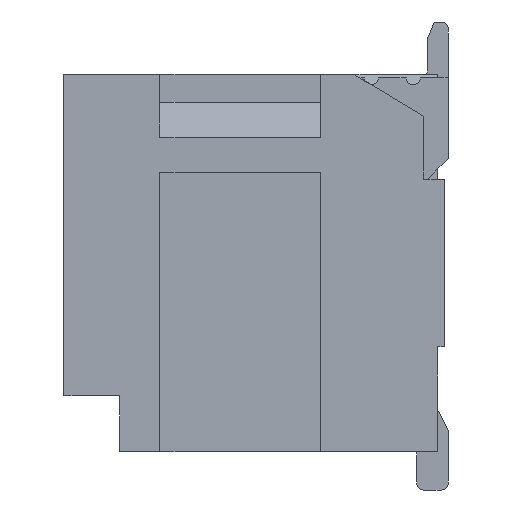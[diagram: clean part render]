
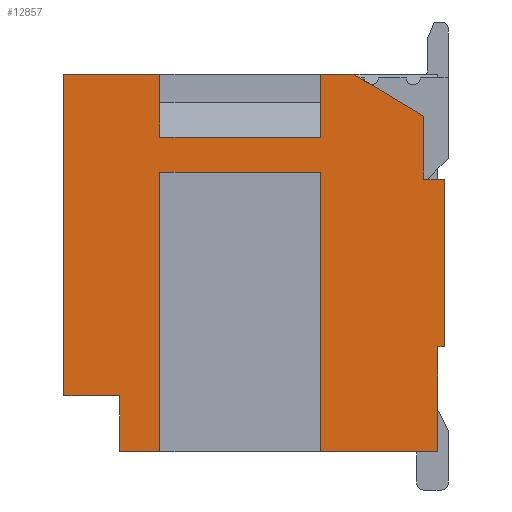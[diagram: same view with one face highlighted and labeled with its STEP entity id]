
A CAD part, left-side view. The second image highlights one B-rep face of the part: STEP entity #12857.
In plain terms, the highlighted planar face has unit normal (-1, 0, 0).
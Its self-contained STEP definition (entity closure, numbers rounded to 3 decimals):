
#73=DIRECTION('',(0.,0.,1.));
#74=VECTOR('',#73,1.5);
#75=CARTESIAN_POINT('',(5.,0.1,-5.4));
#76=LINE('',#75,#74);
#81=DIRECTION('',(0.,-1.,0.));
#82=VECTOR('',#81,0.1);
#83=CARTESIAN_POINT('',(5.,0.1,-3.9));
#84=LINE('',#83,#82);
#85=DIRECTION('',(0.,0.,1.));
#86=VECTOR('',#85,4.6);
#87=CARTESIAN_POINT('',(5.,5.45,-4.6));
#88=LINE('',#87,#86);
#89=DIRECTION('',(0.,-1.,0.));
#90=VECTOR('',#89,1.375);
#91=CARTESIAN_POINT('',(5.,5.45,0.));
#92=LINE('',#91,#90);
#93=DIRECTION('',(0.,-1.,0.));
#94=VECTOR('',#93,2.3);
#95=CARTESIAN_POINT('',(5.,4.075,-0.9));
#96=LINE('',#95,#94);
#97=DIRECTION('',(0.,-0.857,-0.514));
#98=VECTOR('',#97,1.166);
#99=CARTESIAN_POINT('',(5.,1.3,0.));
#100=LINE('',#99,#98);
#101=DIRECTION('',(0.,0.,-1.));
#102=VECTOR('',#101,2.4);
#103=CARTESIAN_POINT('',(5.,0.,-1.5));
#104=LINE('',#103,#102);
#105=DIRECTION('',(0.,1.,0.));
#106=VECTOR('',#105,2.3);
#107=CARTESIAN_POINT('',(5.,1.775,-1.4));
#108=LINE('',#107,#106);
#121=DIRECTION('',(0.,-1.,0.));
#122=VECTOR('',#121,0.8);
#123=CARTESIAN_POINT('',(5.,5.45,-4.6));
#124=LINE('',#123,#122);
#317=DIRECTION('',(0.,0.,-1.));
#318=VECTOR('',#317,0.8);
#319=CARTESIAN_POINT('',(5.,4.65,-4.6));
#320=LINE('',#319,#318);
#497=DIRECTION('',(0.,-1.,0.));
#498=VECTOR('',#497,0.575);
#499=CARTESIAN_POINT('',(5.,4.65,-5.4));
#500=LINE('',#499,#498);
#501=DIRECTION('',(0.,-1.,0.));
#502=VECTOR('',#501,1.675);
#503=CARTESIAN_POINT('',(5.,1.775,-5.4));
#504=LINE('',#503,#502);
#513=DIRECTION('',(0.,0.,1.));
#514=VECTOR('',#513,4.);
#515=CARTESIAN_POINT('',(5.,4.075,-5.4));
#516=LINE('',#515,#514);
#521=DIRECTION('',(0.,0.,-1.));
#522=VECTOR('',#521,4.);
#523=CARTESIAN_POINT('',(5.,1.775,-1.4));
#524=LINE('',#523,#522);
#2355=DIRECTION('',(0.,1.,0.));
#2356=VECTOR('',#2355,0.475);
#2357=CARTESIAN_POINT('',(5.,1.3,0.));
#2358=LINE('',#2357,#2356);
#2447=DIRECTION('',(0.,1.,0.));
#2448=VECTOR('',#2447,0.3);
#2449=CARTESIAN_POINT('',(5.,0.,-1.5));
#2450=LINE('',#2449,#2448);
#2693=DIRECTION('',(0.,0.,1.));
#2694=VECTOR('',#2693,0.9);
#2695=CARTESIAN_POINT('',(5.,0.3,-1.5));
#2696=LINE('',#2695,#2694);
#4531=DIRECTION('',(0.,0.,-1.));
#4532=VECTOR('',#4531,0.9);
#4533=CARTESIAN_POINT('',(5.,1.775,0.));
#4534=LINE('',#4533,#4532);
#4539=DIRECTION('',(0.,0.,1.));
#4540=VECTOR('',#4539,0.9);
#4541=CARTESIAN_POINT('',(5.,4.075,-0.9));
#4542=LINE('',#4541,#4540);
#9797=CARTESIAN_POINT('',(5.,0.,-1.5));
#9798=VERTEX_POINT('',#9797);
#9799=CARTESIAN_POINT('',(5.,0.3,-1.5));
#9800=VERTEX_POINT('',#9799);
#9926=CARTESIAN_POINT('',(5.,5.45,0.));
#9928=VERTEX_POINT('',#9926);
#9975=CARTESIAN_POINT('',(5.,1.3,0.));
#9976=VERTEX_POINT('',#9975);
#9977=CARTESIAN_POINT('',(5.,1.775,0.));
#9978=VERTEX_POINT('',#9977);
#9983=CARTESIAN_POINT('',(5.,4.075,0.));
#9984=VERTEX_POINT('',#9983);
#9986=CARTESIAN_POINT('',(5.,5.45,-4.6));
#9988=VERTEX_POINT('',#9986);
#10007=CARTESIAN_POINT('',(5.,4.65,-4.6));
#10008=VERTEX_POINT('',#10007);
#10149=CARTESIAN_POINT('',(5.,0.,-3.9));
#10150=VERTEX_POINT('',#10149);
#10971=CARTESIAN_POINT('',(5.,4.65,-5.4));
#10972=VERTEX_POINT('',#10971);
#10975=CARTESIAN_POINT('',(5.,4.075,-0.9));
#10976=VERTEX_POINT('',#10975);
#10977=CARTESIAN_POINT('',(5.,1.775,-0.9));
#10978=VERTEX_POINT('',#10977);
#10979=CARTESIAN_POINT('',(5.,0.3,-0.6));
#10980=VERTEX_POINT('',#10979);
#10981=CARTESIAN_POINT('',(5.,0.1,-3.9));
#10982=VERTEX_POINT('',#10981);
#10983=CARTESIAN_POINT('',(5.,0.1,-5.4));
#10984=VERTEX_POINT('',#10983);
#10985=CARTESIAN_POINT('',(5.,1.775,-5.4));
#10986=VERTEX_POINT('',#10985);
#10987=CARTESIAN_POINT('',(5.,1.775,-1.4));
#10988=VERTEX_POINT('',#10987);
#10989=CARTESIAN_POINT('',(5.,4.075,-1.4));
#10990=VERTEX_POINT('',#10989);
#10991=CARTESIAN_POINT('',(5.,4.075,-5.4));
#10992=VERTEX_POINT('',#10991);
#12814=CARTESIAN_POINT('',(5.,2.475,-2.7));
#12815=DIRECTION('',(1.,0.,0.));
#12816=DIRECTION('',(0.,1.,0.));
#12817=AXIS2_PLACEMENT_3D('',#12814,#12815,#12816);
#12818=PLANE('',#12817);
#12820=ORIENTED_EDGE('',*,*,#12819,.F.);
#12822=ORIENTED_EDGE('',*,*,#12821,.T.);
#12824=ORIENTED_EDGE('',*,*,#12823,.T.);
#12826=ORIENTED_EDGE('',*,*,#12825,.F.);
#12828=ORIENTED_EDGE('',*,*,#12827,.T.);
#12830=ORIENTED_EDGE('',*,*,#12829,.F.);
#12832=ORIENTED_EDGE('',*,*,#12831,.F.);
#12834=ORIENTED_EDGE('',*,*,#12833,.T.);
#12836=ORIENTED_EDGE('',*,*,#12835,.F.);
#12838=ORIENTED_EDGE('',*,*,#12837,.F.);
#12840=ORIENTED_EDGE('',*,*,#12839,.T.);
#12841=ORIENTED_EDGE('',*,*,#12805,.F.);
#12842=ORIENTED_EDGE('',*,*,#12794,.F.);
#12844=ORIENTED_EDGE('',*,*,#12843,.F.);
#12846=ORIENTED_EDGE('',*,*,#12845,.F.);
#12848=ORIENTED_EDGE('',*,*,#12847,.T.);
#12850=ORIENTED_EDGE('',*,*,#12849,.F.);
#12852=ORIENTED_EDGE('',*,*,#12851,.F.);
#12854=ORIENTED_EDGE('',*,*,#12853,.F.);
#12855=EDGE_LOOP('',(#12820,#12822,#12824,#12826,#12828,#12830,#12832,#12834,
#12836,#12838,#12840,#12841,#12842,#12844,#12846,#12848,#12850,#12852,#12854));
#12856=FACE_OUTER_BOUND('',#12855,.F.);
#12857=ADVANCED_FACE('',(#12856),#12818,.F.);
#12794=EDGE_CURVE('',#10984,#10982,#76,.T.);
#12805=EDGE_CURVE('',#10982,#10150,#84,.T.);
#12819=EDGE_CURVE('',#9988,#10008,#124,.T.);
#12821=EDGE_CURVE('',#9988,#9928,#88,.T.);
#12823=EDGE_CURVE('',#9928,#9984,#92,.T.);
#12825=EDGE_CURVE('',#10976,#9984,#4542,.T.);
#12827=EDGE_CURVE('',#10976,#10978,#96,.T.);
#12829=EDGE_CURVE('',#9978,#10978,#4534,.T.);
#12831=EDGE_CURVE('',#9976,#9978,#2358,.T.);
#12833=EDGE_CURVE('',#9976,#10980,#100,.T.);
#12835=EDGE_CURVE('',#9800,#10980,#2696,.T.);
#12837=EDGE_CURVE('',#9798,#9800,#2450,.T.);
#12839=EDGE_CURVE('',#9798,#10150,#104,.T.);
#12843=EDGE_CURVE('',#10986,#10984,#504,.T.);
#12845=EDGE_CURVE('',#10988,#10986,#524,.T.);
#12847=EDGE_CURVE('',#10988,#10990,#108,.T.);
#12849=EDGE_CURVE('',#10992,#10990,#516,.T.);
#12851=EDGE_CURVE('',#10972,#10992,#500,.T.);
#12853=EDGE_CURVE('',#10008,#10972,#320,.T.);
